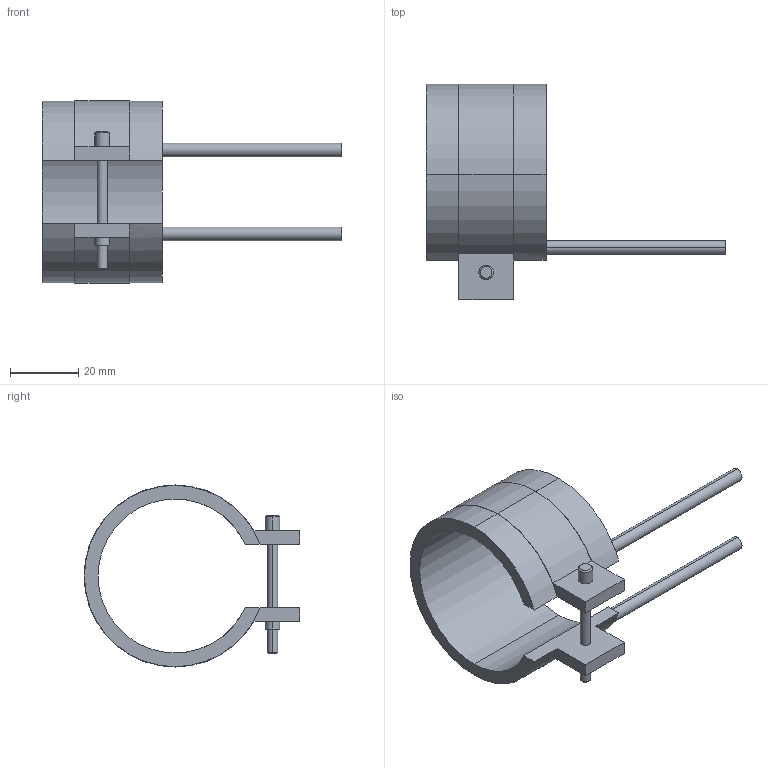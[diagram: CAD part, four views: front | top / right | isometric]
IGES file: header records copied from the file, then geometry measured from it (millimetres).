
Start section: START RECORD GO HERE.
Global section: file name: 14045035.igs; native system: DASSAULT SYSTEMES CATIA V5 R20 - www.3ds.com; preprocessor: CATIA Version 5 Release 20 ; author: Utente; organization: NB04-ASUS; date: 20210331.135912; units: millimetre
Bounding box: 87.5 x 63.1 x 53.2 mm (x, y, z)
Surface area: 13489.9 mm2 (no closed solid volume)
Topology: 0 solids, 0 shells, 45 faces, 232 edges, 232 vertices
Faces by surface type: revolution 28, plane 17
